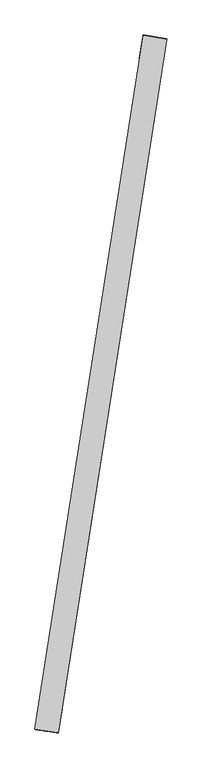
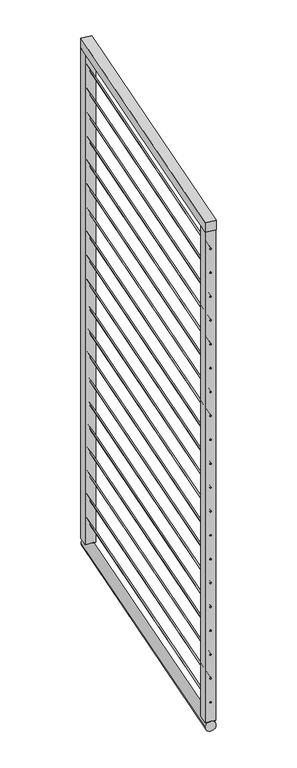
"""IFC4 building model written with IfcOpenShell, lengths in millimetres: railing geometry, Reja acceso - puerta."""

from ifc_helpers import new_model, si_unit, point, frame, origin, origin_2d, place, context, project, spatial, polyline, circle_curve, trimmed, segment, composite_curve, outline, extrude, source, transform, mapped, element, save


def railing_a3b36b52(model_context):
    return source(origin(), model_context, "Body", "SweptSolid", [
        extrude(outline(polyline([(-42247.0367141, -62715.4065215), (-42207.5139418, -62721.5669167), (-42389.5483274, -63889.4308892), (-42429.0710997, -63883.2704941), (-42247.0367141, -62715.4065215)])), frame((0.0, 0.0, 2025.385397), z_axis=(0.0, 0.0, 1.0), x_axis=(1.0, 0.0, 0.0)), (0.0, 0.0, 1.0), 40.0),
        extrude(outline(composite_curve([segment(trimmed(circle_curve(origin_2d(), 2.5), [point((2.5, 0.0))], [point((-2.5, 0.0))], False, "CARTESIAN"), True, "CONTINUOUS"), segment(trimmed(circle_curve(origin_2d(), 2.5), [point((-2.5, 0.0))], [point((2.5, 0.0))], False, "CARTESIAN"), True, "CONTINUOUS")], self_intersect=False)), frame((-42409.3097136, -63886.3506917, 1950.0), z_axis=(0.15400987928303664, 0.9880693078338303, 0.0), x_axis=(0.9880693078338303, -0.15400987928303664, 0.0)), (0.0, 0.0, 1.0), 1181.9656408),
        extrude(outline(composite_curve([segment(trimmed(circle_curve(origin_2d(), 2.5), [point((2.5, 0.0))], [point((-2.5, 0.0))], False, "CARTESIAN"), True, "CONTINUOUS"), segment(trimmed(circle_curve(origin_2d(), 2.5), [point((-2.5, 0.0))], [point((2.5, 0.0))], False, "CARTESIAN"), True, "CONTINUOUS")], self_intersect=False)), frame((-42409.3097136, -63886.3506917, 1850.0), z_axis=(0.15400987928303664, 0.9880693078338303, 0.0), x_axis=(0.9880693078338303, -0.15400987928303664, 0.0)), (0.0, 0.0, 1.0), 1181.9656408),
        extrude(outline(composite_curve([segment(trimmed(circle_curve(origin_2d(), 2.5), [point((2.5, 0.0))], [point((-2.5, 0.0))], False, "CARTESIAN"), True, "CONTINUOUS"), segment(trimmed(circle_curve(origin_2d(), 2.5), [point((-2.5, 0.0))], [point((2.5, 0.0))], False, "CARTESIAN"), True, "CONTINUOUS")], self_intersect=False)), frame((-42409.3097136, -63886.3506917, 1750.0), z_axis=(0.15400987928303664, 0.9880693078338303, 0.0), x_axis=(0.9880693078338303, -0.15400987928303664, 0.0)), (0.0, 0.0, 1.0), 1181.9656408),
        extrude(outline(composite_curve([segment(trimmed(circle_curve(origin_2d(), 2.5), [point((2.5, 0.0))], [point((-2.5, 0.0))], False, "CARTESIAN"), True, "CONTINUOUS"), segment(trimmed(circle_curve(origin_2d(), 2.5), [point((-2.5, 0.0))], [point((2.5, 0.0))], False, "CARTESIAN"), True, "CONTINUOUS")], self_intersect=False)), frame((-42409.3097136, -63886.3506917, 1650.0), z_axis=(0.15400987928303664, 0.9880693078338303, 0.0), x_axis=(0.9880693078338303, -0.15400987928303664, 0.0)), (0.0, 0.0, 1.0), 1181.9656408),
        extrude(outline(composite_curve([segment(trimmed(circle_curve(origin_2d(), 2.5), [point((2.5, 0.0))], [point((-2.5, 0.0))], False, "CARTESIAN"), True, "CONTINUOUS"), segment(trimmed(circle_curve(origin_2d(), 2.5), [point((-2.5, 0.0))], [point((2.5, 0.0))], False, "CARTESIAN"), True, "CONTINUOUS")], self_intersect=False)), frame((-42409.3097136, -63886.3506917, 1550.0), z_axis=(0.15400987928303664, 0.9880693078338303, 0.0), x_axis=(0.9880693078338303, -0.15400987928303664, 0.0)), (0.0, 0.0, 1.0), 1181.9656408),
        extrude(outline(composite_curve([segment(trimmed(circle_curve(origin_2d(), 2.5), [point((2.5, 0.0))], [point((-2.5, 0.0))], False, "CARTESIAN"), True, "CONTINUOUS"), segment(trimmed(circle_curve(origin_2d(), 2.5), [point((-2.5, 0.0))], [point((2.5, 0.0))], False, "CARTESIAN"), True, "CONTINUOUS")], self_intersect=False)), frame((-42409.3097136, -63886.3506917, 1450.0), z_axis=(0.15400987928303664, 0.9880693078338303, 0.0), x_axis=(0.9880693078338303, -0.15400987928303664, 0.0)), (0.0, 0.0, 1.0), 1181.9656408),
        extrude(outline(composite_curve([segment(trimmed(circle_curve(origin_2d(), 2.5), [point((2.5, 0.0))], [point((-2.5, 0.0))], False, "CARTESIAN"), True, "CONTINUOUS"), segment(trimmed(circle_curve(origin_2d(), 2.5), [point((-2.5, 0.0))], [point((2.5, 0.0))], False, "CARTESIAN"), True, "CONTINUOUS")], self_intersect=False)), frame((-42409.3097136, -63886.3506917, 1350.0), z_axis=(0.15400987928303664, 0.9880693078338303, 0.0), x_axis=(0.9880693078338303, -0.15400987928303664, 0.0)), (0.0, 0.0, 1.0), 1181.9656408),
        extrude(outline(composite_curve([segment(trimmed(circle_curve(origin_2d(), 2.5), [point((2.5, 0.0))], [point((-2.5, 0.0))], False, "CARTESIAN"), True, "CONTINUOUS"), segment(trimmed(circle_curve(origin_2d(), 2.5), [point((-2.5, 0.0))], [point((2.5, 0.0))], False, "CARTESIAN"), True, "CONTINUOUS")], self_intersect=False)), frame((-42409.3097136, -63886.3506917, 1250.0), z_axis=(0.15400987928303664, 0.9880693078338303, 0.0), x_axis=(0.9880693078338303, -0.15400987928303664, 0.0)), (0.0, 0.0, 1.0), 1181.9656408),
        extrude(outline(composite_curve([segment(trimmed(circle_curve(origin_2d(), 2.5), [point((2.5, 0.0))], [point((-2.5, 0.0))], False, "CARTESIAN"), True, "CONTINUOUS"), segment(trimmed(circle_curve(origin_2d(), 2.5), [point((-2.5, 0.0))], [point((2.5, 0.0))], False, "CARTESIAN"), True, "CONTINUOUS")], self_intersect=False)), frame((-42409.3097136, -63886.3506917, 1150.0), z_axis=(0.15400987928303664, 0.9880693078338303, 0.0), x_axis=(0.9880693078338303, -0.15400987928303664, 0.0)), (0.0, 0.0, 1.0), 1181.9656408),
        extrude(outline(composite_curve([segment(trimmed(circle_curve(origin_2d(), 2.5), [point((2.5, 0.0))], [point((-2.5, 0.0))], False, "CARTESIAN"), True, "CONTINUOUS"), segment(trimmed(circle_curve(origin_2d(), 2.5), [point((-2.5, 0.0))], [point((2.5, 0.0))], False, "CARTESIAN"), True, "CONTINUOUS")], self_intersect=False)), frame((-42409.3097136, -63886.3506917, 1050.0), z_axis=(0.15400987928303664, 0.9880693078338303, 0.0), x_axis=(0.9880693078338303, -0.15400987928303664, 0.0)), (0.0, 0.0, 1.0), 1181.9656408),
        extrude(outline(composite_curve([segment(trimmed(circle_curve(origin_2d(), 2.5), [point((2.5, 0.0))], [point((-2.5, 0.0))], False, "CARTESIAN"), True, "CONTINUOUS"), segment(trimmed(circle_curve(origin_2d(), 2.5), [point((-2.5, 0.0))], [point((2.5, 0.0))], False, "CARTESIAN"), True, "CONTINUOUS")], self_intersect=False)), frame((-42409.3097136, -63886.3506917, 950.0), z_axis=(0.15400987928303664, 0.9880693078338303, 0.0), x_axis=(0.9880693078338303, -0.15400987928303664, 0.0)), (0.0, 0.0, 1.0), 1181.9656408),
        extrude(outline(composite_curve([segment(trimmed(circle_curve(origin_2d(), 2.5), [point((2.5, 0.0))], [point((-2.5, 0.0))], False, "CARTESIAN"), True, "CONTINUOUS"), segment(trimmed(circle_curve(origin_2d(), 2.5), [point((-2.5, 0.0))], [point((2.5, 0.0))], False, "CARTESIAN"), True, "CONTINUOUS")], self_intersect=False)), frame((-42409.3097136, -63886.3506917, 850.0), z_axis=(0.15400987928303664, 0.9880693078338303, 0.0), x_axis=(0.9880693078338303, -0.15400987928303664, 0.0)), (0.0, 0.0, 1.0), 1181.9656408),
        extrude(outline(composite_curve([segment(trimmed(circle_curve(origin_2d(), 2.5), [point((2.5, 0.0))], [point((-2.5, 0.0))], False, "CARTESIAN"), True, "CONTINUOUS"), segment(trimmed(circle_curve(origin_2d(), 2.5), [point((-2.5, 0.0))], [point((2.5, 0.0))], False, "CARTESIAN"), True, "CONTINUOUS")], self_intersect=False)), frame((-42409.3097136, -63886.3506917, 750.0), z_axis=(0.15400987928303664, 0.9880693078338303, 0.0), x_axis=(0.9880693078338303, -0.15400987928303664, 0.0)), (0.0, 0.0, 1.0), 1181.9656408),
        extrude(outline(composite_curve([segment(trimmed(circle_curve(origin_2d(), 2.5), [point((2.5, 0.0))], [point((-2.5, 0.0))], False, "CARTESIAN"), True, "CONTINUOUS"), segment(trimmed(circle_curve(origin_2d(), 2.5), [point((-2.5, 0.0))], [point((2.5, 0.0))], False, "CARTESIAN"), True, "CONTINUOUS")], self_intersect=False)), frame((-42409.3097136, -63886.3506917, 650.0), z_axis=(0.15400987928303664, 0.9880693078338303, 0.0), x_axis=(0.9880693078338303, -0.15400987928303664, 0.0)), (0.0, 0.0, 1.0), 1181.9656408),
        extrude(outline(composite_curve([segment(trimmed(circle_curve(origin_2d(), 2.5), [point((2.5, 0.0))], [point((-2.5, 0.0))], False, "CARTESIAN"), True, "CONTINUOUS"), segment(trimmed(circle_curve(origin_2d(), 2.5), [point((-2.5, 0.0))], [point((2.5, 0.0))], False, "CARTESIAN"), True, "CONTINUOUS")], self_intersect=False)), frame((-42409.3097136, -63886.3506917, 550.0), z_axis=(0.15400987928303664, 0.9880693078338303, 0.0), x_axis=(0.9880693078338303, -0.15400987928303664, 0.0)), (0.0, 0.0, 1.0), 1181.9656408),
        extrude(outline(composite_curve([segment(trimmed(circle_curve(origin_2d(), 2.5), [point((2.5, 0.0))], [point((-2.5, 0.0))], False, "CARTESIAN"), True, "CONTINUOUS"), segment(trimmed(circle_curve(origin_2d(), 2.5), [point((-2.5, 0.0))], [point((2.5, 0.0))], False, "CARTESIAN"), True, "CONTINUOUS")], self_intersect=False)), frame((-42409.3097136, -63886.3506917, 450.0), z_axis=(0.15400987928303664, 0.9880693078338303, 0.0), x_axis=(0.9880693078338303, -0.15400987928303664, 0.0)), (0.0, 0.0, 1.0), 1181.9656408),
        extrude(outline(composite_curve([segment(trimmed(circle_curve(origin_2d(), 2.5), [point((2.5, 0.0))], [point((-2.5, 0.0))], False, "CARTESIAN"), True, "CONTINUOUS"), segment(trimmed(circle_curve(origin_2d(), 2.5), [point((-2.5, 0.0))], [point((2.5, 0.0))], False, "CARTESIAN"), True, "CONTINUOUS")], self_intersect=False)), frame((-42409.3097136, -63886.3506917, 350.0), z_axis=(0.15400987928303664, 0.9880693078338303, 0.0), x_axis=(0.9880693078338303, -0.15400987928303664, 0.0)), (0.0, 0.0, 1.0), 1181.9656408),
        extrude(outline(composite_curve([segment(trimmed(circle_curve(origin_2d(), 2.5), [point((2.5, 0.0))], [point((-2.5, 0.0))], False, "CARTESIAN"), True, "CONTINUOUS"), segment(trimmed(circle_curve(origin_2d(), 2.5), [point((-2.5, 0.0))], [point((2.5, 0.0))], False, "CARTESIAN"), True, "CONTINUOUS")], self_intersect=False)), frame((-42409.3097136, -63886.3506917, 250.0), z_axis=(0.15400987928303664, 0.9880693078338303, 0.0), x_axis=(0.9880693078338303, -0.15400987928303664, 0.0)), (0.0, 0.0, 1.0), 1181.9656408),
        extrude(outline(composite_curve([segment(trimmed(circle_curve(origin_2d(), 2.5), [point((2.5, 0.0))], [point((-2.5, 0.0))], False, "CARTESIAN"), True, "CONTINUOUS"), segment(trimmed(circle_curve(origin_2d(), 2.5), [point((-2.5, 0.0))], [point((2.5, 0.0))], False, "CARTESIAN"), True, "CONTINUOUS")], self_intersect=False)), frame((-42409.3097136, -63886.3506917, 150.0), z_axis=(0.15400987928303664, 0.9880693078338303, 0.0), x_axis=(0.9880693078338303, -0.15400987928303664, 0.0)), (0.0, 0.0, 1.0), 1181.9656408),
        extrude(outline(composite_curve([segment(trimmed(circle_curve(origin_2d(), 2.5), [point((2.5, 0.0))], [point((-2.5, 0.0))], False, "CARTESIAN"), True, "CONTINUOUS"), segment(trimmed(circle_curve(origin_2d(), 2.5), [point((-2.5, 0.0))], [point((2.5, 0.0))], False, "CARTESIAN"), True, "CONTINUOUS")], self_intersect=False)), frame((-42409.3097136, -63886.3506917, 50.0), z_axis=(0.15400987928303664, 0.9880693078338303, 0.0), x_axis=(0.9880693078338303, -0.15400987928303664, 0.0)), (0.0, 0.0, 1.0), 1181.9656408),
        extrude(outline(composite_curve([segment(trimmed(circle_curve(origin_2d(), 20.0), [point((20.0, 0.0))], [point((-19.9999999, 0.0))], False, "CARTESIAN"), True, "CONTINUOUS"), segment(trimmed(circle_curve(origin_2d(), 20.0), [point((-19.9999999, 0.0))], [point((20.0, 0.0))], False, "CARTESIAN"), True, "CONTINUOUS")], self_intersect=False)), frame((-42409.3097136, -63886.3506917, -50.0), z_axis=(0.15400987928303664, 0.9880693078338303, 0.0), x_axis=(0.9880693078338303, -0.15400987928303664, 0.0)), (0.0, 0.0, 1.0), 1181.9656408),
        extrude(outline(polyline([(-42383.2365682, -63848.9370223), (-42389.3969634, -63888.4597946), (-42428.9197357, -63882.2993994), (-42422.7593405, -63842.7766271), (-42383.2365682, -63848.9370223)])), frame((0.0, 0.0, -30.0), z_axis=(0.0, 0.0, 1.0), x_axis=(1.0, 0.0, 0.0)), (0.0, 0.0, 1.0), 2055.385397),
        extrude(outline(polyline([(-42207.3625777, -62720.5958221), (-42213.5229729, -62760.1185944), (-42253.0457452, -62753.9581992), (-42246.88535, -62714.4354269), (-42207.3625777, -62720.5958221)])), frame((0.0, 0.0, -30.0), z_axis=(0.0, 0.0, 1.0), x_axis=(1.0, 0.0, 0.0)), (0.0, 0.0, 1.0), 2055.385397),
    ])


if __name__ == "__main__":
    model = new_model("IFC4")
    model_context = context("Model", 3, world=origin())
    ifc_project = project(units=[si_unit("LENGTHUNIT", "METRE", prefix="MILLI")], contexts=[model_context])
    site = spatial("IfcSite", under=ifc_project)
    building = spatial("IfcBuilding", under=site)
    placement = place(None, origin())
    railing_shape = railing_a3b36b52(model_context)
    element("IfcRailing", 1, ObjectType="Reja acceso - puerta", at=placement, inside=building, context=model_context, shape_type="MappedRepresentation", body=[
        mapped(railing_shape, transform((0.0, 0.0, 0.0), x_axis=(1.0, 0.0, 0.0), y_axis=(0.0, 1.0, 0.0), z_axis=(0.0, 0.0, 1.0))),
    ])
    save(model, "model.ifc")
